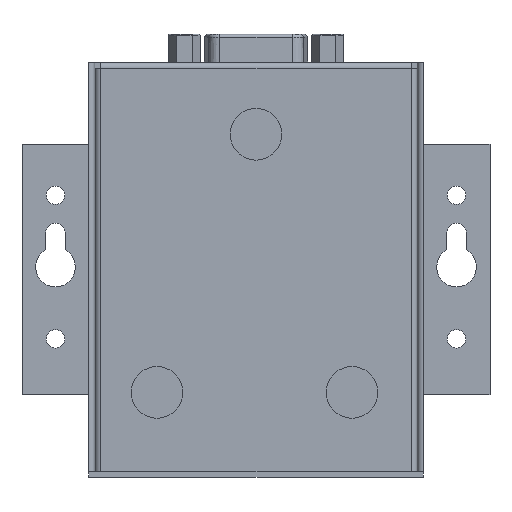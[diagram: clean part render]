
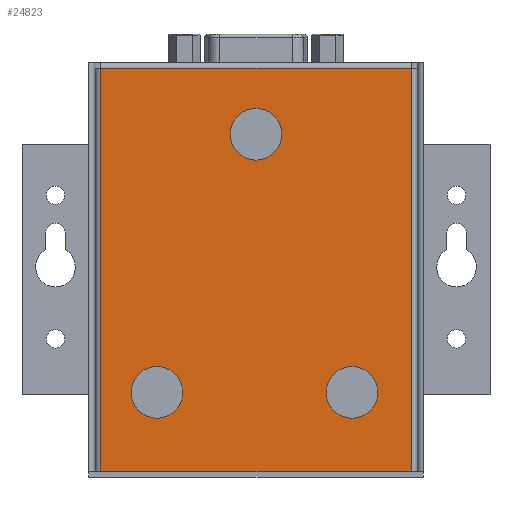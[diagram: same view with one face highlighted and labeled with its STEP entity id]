
A CAD part, front view. The second image highlights one B-rep face of the part: STEP entity #24823.
In plain terms, the highlighted planar face has unit normal (0, -1, 0).
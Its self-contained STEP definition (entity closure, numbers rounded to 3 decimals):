
#247=FACE_BOUND('',#4336,.T.);
#248=FACE_BOUND('',#4337,.T.);
#249=FACE_BOUND('',#4338,.T.);
#1043=PLANE('',#26535);
#1522=CIRCLE('',#25478,4.5);
#1789=CIRCLE('',#26536,4.5);
#1790=CIRCLE('',#26537,4.5);
#2937=FACE_OUTER_BOUND('',#4335,.T.);
#4335=EDGE_LOOP('',(#22288,#22289,#22290,#22291));
#4336=EDGE_LOOP('',(#22292));
#4337=EDGE_LOOP('',(#22293));
#4338=EDGE_LOOP('',(#22294));
#5148=LINE('',#36456,#7952);
#7208=LINE('',#43563,#10012);
#7209=LINE('',#43565,#10013);
#7210=LINE('',#43566,#10014);
#7952=VECTOR('',#27810,10.);
#10012=VECTOR('',#32328,10.);
#10013=VECTOR('',#32329,10.);
#10014=VECTOR('',#32330,10.);
#10804=VERTEX_POINT('',#36453);
#10805=VERTEX_POINT('',#36455);
#11063=VERTEX_POINT('',#37225);
#12367=VERTEX_POINT('',#43562);
#12368=VERTEX_POINT('',#43564);
#12369=VERTEX_POINT('',#43567);
#12370=VERTEX_POINT('',#43569);
#13277=EDGE_CURVE('',#10805,#10804,#5148,.T.);
#13639=EDGE_CURVE('',#11063,#11063,#1522,.T.);
#15779=EDGE_CURVE('',#10804,#12367,#7208,.T.);
#15780=EDGE_CURVE('',#12367,#12368,#7209,.T.);
#15781=EDGE_CURVE('',#12368,#10805,#7210,.T.);
#15782=EDGE_CURVE('',#12369,#12369,#1789,.T.);
#15783=EDGE_CURVE('',#12370,#12370,#1790,.T.);
#22288=ORIENTED_EDGE('',*,*,#15779,.T.);
#22289=ORIENTED_EDGE('',*,*,#15780,.T.);
#22290=ORIENTED_EDGE('',*,*,#15781,.T.);
#22291=ORIENTED_EDGE('',*,*,#13277,.T.);
#22292=ORIENTED_EDGE('',*,*,#15782,.T.);
#22293=ORIENTED_EDGE('',*,*,#13639,.T.);
#22294=ORIENTED_EDGE('',*,*,#15783,.T.);
#24823=ADVANCED_FACE('',(#2937,#247,#248,#249),#1043,.F.);
#25478=AXIS2_PLACEMENT_3D('',#37227,#28428,#28429);
#26535=AXIS2_PLACEMENT_3D('',#43561,#32326,#32327);
#26536=AXIS2_PLACEMENT_3D('',#43568,#32331,#32332);
#26537=AXIS2_PLACEMENT_3D('',#43570,#32333,#32334);
#27810=DIRECTION('',(1.,0.,0.));
#28428=DIRECTION('center_axis',(0.,1.,0.));
#28429=DIRECTION('ref_axis',(1.,0.,0.));
#32326=DIRECTION('center_axis',(0.,1.,0.));
#32327=DIRECTION('ref_axis',(1.,0.,0.));
#32328=DIRECTION('',(0.,0.,1.));
#32329=DIRECTION('',(-1.,0.,0.));
#32330=DIRECTION('',(0.,0.,-1.));
#32331=DIRECTION('center_axis',(0.,1.,0.));
#32332=DIRECTION('ref_axis',(1.,0.,0.));
#32333=DIRECTION('center_axis',(0.,1.,0.));
#32334=DIRECTION('ref_axis',(1.,0.,0.));
#36453=CARTESIAN_POINT('',(52.055,-5.51,-69.6));
#36455=CARTESIAN_POINT('',(-2.055,-5.51,-69.6));
#36456=CARTESIAN_POINT('',(-3.065,-5.51,-69.6));
#37225=CARTESIAN_POINT('',(3.279,-5.51,-55.8));
#37227=CARTESIAN_POINT('Origin',(7.779,-5.51,-55.8));
#43561=CARTESIAN_POINT('Origin',(25.,-5.51,-34.));
#43562=CARTESIAN_POINT('',(52.055,-5.51,0.59));
#43563=CARTESIAN_POINT('',(52.055,-5.51,-16.705));
#43564=CARTESIAN_POINT('',(-2.055,-5.51,0.59));
#43565=CARTESIAN_POINT('',(10.968,-5.51,0.59));
#43566=CARTESIAN_POINT('',(-2.055,-5.51,-51.8));
#43567=CARTESIAN_POINT('',(37.207,-5.51,-55.8));
#43568=CARTESIAN_POINT('Origin',(41.707,-5.51,-55.8));
#43569=CARTESIAN_POINT('',(20.5,-5.51,-10.872));
#43570=CARTESIAN_POINT('Origin',(25.,-5.51,-10.872));
